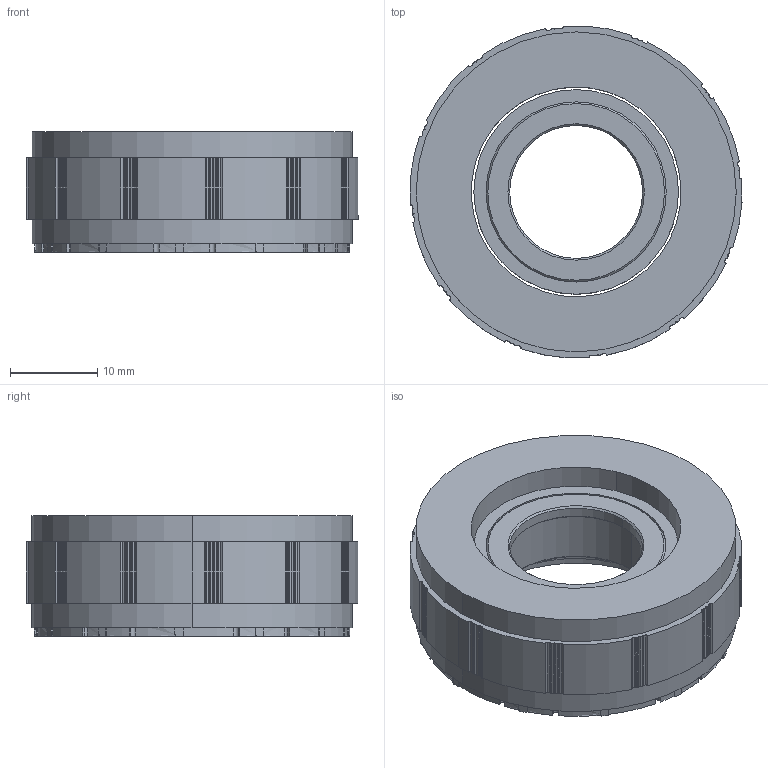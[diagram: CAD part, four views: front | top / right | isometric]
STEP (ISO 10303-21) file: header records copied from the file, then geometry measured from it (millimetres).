
FILE_DESCRIPTION (( 'STEP AP203' ), '1' );
FILE_NAME ('307091962SS (FMK03807-0005-3518N-7DP02)-V1.0.STEP', '2025-08-11T01:21:37', ( '' ), ( '' ), 'SwSTEP 2.0', 'SolidWorks 2023', '' );
FILE_SCHEMA (( 'CONFIG_CONTROL_DESIGN' ));
Length unit declared in the file: millimetre
Products named in the file (1): 307091962SS (FMK03807-0005-3518N-7DP02)-V1.0
Bounding box: 37.96 x 37.93 x 13.8 mm (x, y, z)
Volume: 10246.1 mm3; surface area: 6639.7 mm2
Topology: 3 solids, 3 shells, 474 faces, 1331 edges, 876 vertices
Faces by surface type: cylinder 354, plane 98, torus 12, cone 10
Entity records: 15790 total; most frequent: DIRECTION 2987, CARTESIAN_POINT 2802, ORIENTED_EDGE 2662, EDGE_CURVE 1331, AXIS2_PLACEMENT_3D 1205, VERTEX_POINT 876, CIRCLE 730, VECTOR 577
